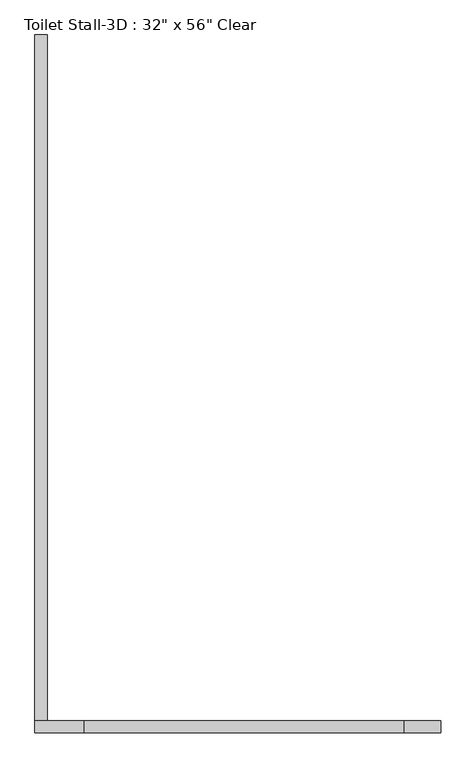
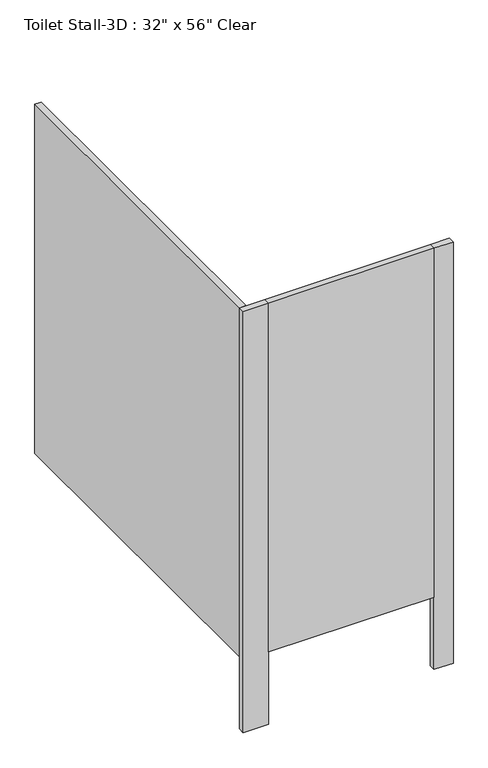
"""IFC4 building model written with IfcOpenShell, lengths in millimetres: proxy geometry."""

from ifc_helpers import new_model, si_unit, frame, origin, origin_with_axes, place, context, project, spatial, polyline, outline, extrude, source, transform, mapped, element, save


def proxy_280b500a(model_context):
    return source(origin(), model_context, "Body", "SweptSolid", [
        extrude(outline(polyline([(735.1031538, -1504.95), (74.7031538, -1504.95), (74.7031538, -1479.55), (735.1031538, -1479.55), (735.1031538, -1504.95)])), frame((0.0, 0.0, 304.8), z_axis=(0.0, 0.0, 1.0), x_axis=(1.0, 0.0, 0.0)), (0.0, 0.0, 1.0), 1473.2),
        extrude(outline(polyline([(74.7031538, -1504.95), (-26.8968462, -1504.95), (-26.8968462, -1479.55), (74.7031538, -1479.55), (74.7031538, -1504.95)])), origin_with_axes(), (0.0, 0.0, 1.0), 1778.0),
        extrude(outline(polyline([(811.3031538, -1504.95), (735.1031538, -1504.95), (735.1031538, -1479.55), (811.3031538, -1479.55), (811.3031538, -1504.95)])), origin_with_axes(), (0.0, 0.0, 1.0), 1778.0),
        extrude(outline(polyline([(-26.8968462, -1479.55), (-26.8968462, -63.5), (-1.4968462, -63.5), (-1.4968462, -1479.55), (-26.8968462, -1479.55)])), frame((0.0, 0.0, 304.8), z_axis=(0.0, 0.0, 1.0), x_axis=(1.0, 0.0, 0.0)), (0.0, 0.0, 1.0), 1473.2),
    ])


if __name__ == "__main__":
    model = new_model("IFC4")
    model_context = context("Model", 3, world=origin())
    ifc_project = project(units=[si_unit("LENGTHUNIT", "METRE", prefix="MILLI")], contexts=[model_context])
    site = spatial("IfcSite", under=ifc_project)
    building = spatial("IfcBuilding", under=site)
    placement = place(None, origin())
    proxy_shape = proxy_280b500a(model_context)
    element("IfcBuildingElementProxy", 1, Name="Toilet Stall-3D : 32\" x 56\" Clear", ObjectType="Toilet Stall-3D : 32\" x 56\" Clear", at=placement, inside=building, context=model_context, shape_type="MappedRepresentation", body=[
        mapped(proxy_shape, transform((0.0, 0.0, 0.0), x_axis=(1.0, 0.0, 0.0), y_axis=(0.0, 1.0, 0.0), z_axis=(0.0, 0.0, 1.0))),
    ])
    save(model, "model.ifc")
